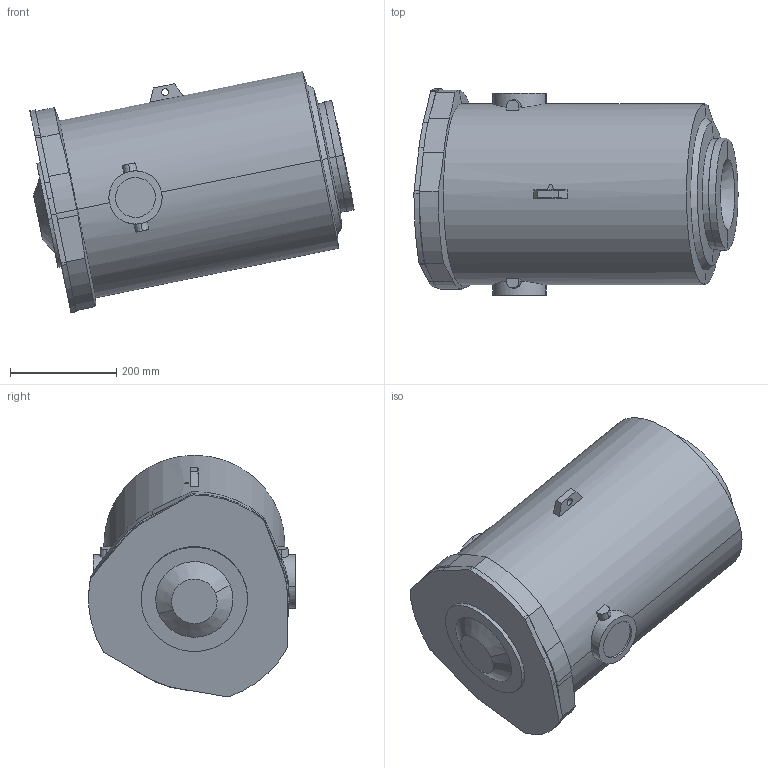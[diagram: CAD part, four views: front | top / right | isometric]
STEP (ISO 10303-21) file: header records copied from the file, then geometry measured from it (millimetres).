
FILE_DESCRIPTION (( 'STEP AP214' ), '1' );
FILE_NAME ('IRB6730-LID_190kg-310_OC_00_CYL_CAD.step', '2026-05-26T09:16:03', ( '' ), ( '' ), 'SwSTEP 2.0', 'SolidWorks 2024', '' );
FILE_SCHEMA (( 'AUTOMOTIVE_DESIGN' ));
Length unit declared in the file: millimetre
Products named in the file (1): IRB6730-LID_190kg-310_OC_00_CYL_CAD
Bounding box: 609.28 x 388.83 x 454.18 mm (x, y, z)
Volume: 49247474 mm3; surface area: 920113.9 mm2
Topology: 1 solids, 5 shells, 124 faces, 295 edges, 187 vertices
Faces by surface type: plane 53, cylinder 49, cone 22
Entity records: 5411 total; most frequent: CARTESIAN_POINT 1152, DIRECTION 615, ORIENTED_EDGE 590, EDGE_CURVE 295, AXIS2_PLACEMENT_3D 233, VERTEX_POINT 187, VECTOR 149, LINE 149
